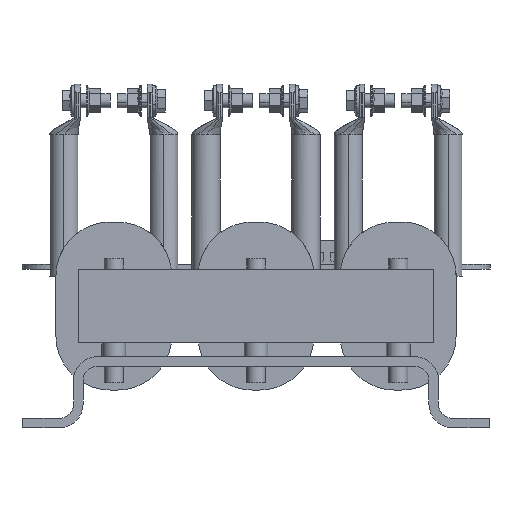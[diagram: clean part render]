
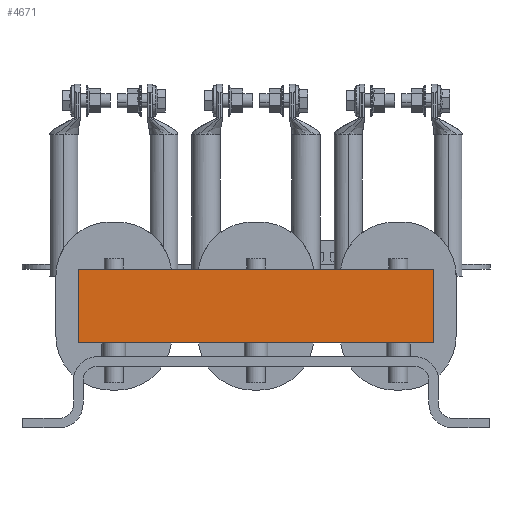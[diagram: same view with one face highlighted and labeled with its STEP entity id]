
A CAD part, front view. The second image highlights one B-rep face of the part: STEP entity #4671.
In plain terms, the highlighted planar face has unit normal (0, -1, 0).
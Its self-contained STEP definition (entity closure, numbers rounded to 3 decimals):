
#198 = VERTEX_POINT ( 'NONE', #21965 ) ;
#1331 = LINE ( 'NONE', #4677, #2448 ) ;
#1345 = EDGE_CURVE ( 'NONE', #4486, #198, #8439, .T. ) ;
#1824 = CARTESIAN_POINT ( 'NONE',  ( 150., 0., -31.15 ) ) ;
#2448 = VECTOR ( 'NONE', #20980, 1000. ) ;
#3151 = AXIS2_PLACEMENT_3D ( 'NONE', #5161, #10253, #11869 ) ;
#4486 = VERTEX_POINT ( 'NONE', #1824 ) ;
#4671 = ADVANCED_FACE ( 'NONE', ( #17544 ), #10480, .T. ) ;
#4677 = CARTESIAN_POINT ( 'NONE',  ( -150., 0., -29.65 ) ) ;
#5033 = VECTOR ( 'NONE', #5211, 1000. ) ;
#5054 = CARTESIAN_POINT ( 'NONE',  ( -150., 0., 31.15 ) ) ;
#5161 = CARTESIAN_POINT ( 'NONE',  ( -150., 0., -29.65 ) ) ;
#5211 = DIRECTION ( 'NONE',  ( 0., 0., 1. ) ) ;
#7585 = ORIENTED_EDGE ( 'NONE', *, *, #15977, .T. ) ;
#7757 = ORIENTED_EDGE ( 'NONE', *, *, #20333, .F. ) ;
#8439 = LINE ( 'NONE', #21050, #5033 ) ;
#8500 = ORIENTED_EDGE ( 'NONE', *, *, #1345, .T. ) ;
#9006 = CARTESIAN_POINT ( 'NONE',  ( -150., 0., -31.15 ) ) ;
#9131 = LINE ( 'NONE', #9006, #16559 ) ;
#10087 = EDGE_LOOP ( 'NONE', ( #8500, #19156, #7757, #7585 ) ) ;
#10253 = DIRECTION ( 'NONE',  ( 0., -1., 0. ) ) ;
#10480 = PLANE ( 'NONE',  #3151 ) ;
#11616 = VERTEX_POINT ( 'NONE', #5054 ) ;
#11869 = DIRECTION ( 'NONE',  ( 0., 0., -1. ) ) ;
#12572 = VERTEX_POINT ( 'NONE', #15887 ) ;
#12880 = VECTOR ( 'NONE', #19237, 1000. ) ;
#14451 = DIRECTION ( 'NONE',  ( 1., 0., 0. ) ) ;
#15491 = EDGE_CURVE ( 'NONE', #11616, #198, #20849, .T. ) ;
#15887 = CARTESIAN_POINT ( 'NONE',  ( -150., 0., -31.15 ) ) ;
#15977 = EDGE_CURVE ( 'NONE', #12572, #4486, #9131, .T. ) ;
#16559 = VECTOR ( 'NONE', #14451, 1000. ) ;
#17281 = CARTESIAN_POINT ( 'NONE',  ( -150., 0., 31.15 ) ) ;
#17544 = FACE_OUTER_BOUND ( 'NONE', #10087, .T. ) ;
#19156 = ORIENTED_EDGE ( 'NONE', *, *, #15491, .F. ) ;
#19237 = DIRECTION ( 'NONE',  ( 1., 0., 0. ) ) ;
#20333 = EDGE_CURVE ( 'NONE', #12572, #11616, #1331, .T. ) ;
#20849 = LINE ( 'NONE', #17281, #12880 ) ;
#20980 = DIRECTION ( 'NONE',  ( 0., 0., 1. ) ) ;
#21050 = CARTESIAN_POINT ( 'NONE',  ( 150., 0., -29.65 ) ) ;
#21965 = CARTESIAN_POINT ( 'NONE',  ( 150., 0., 31.15 ) ) ;
